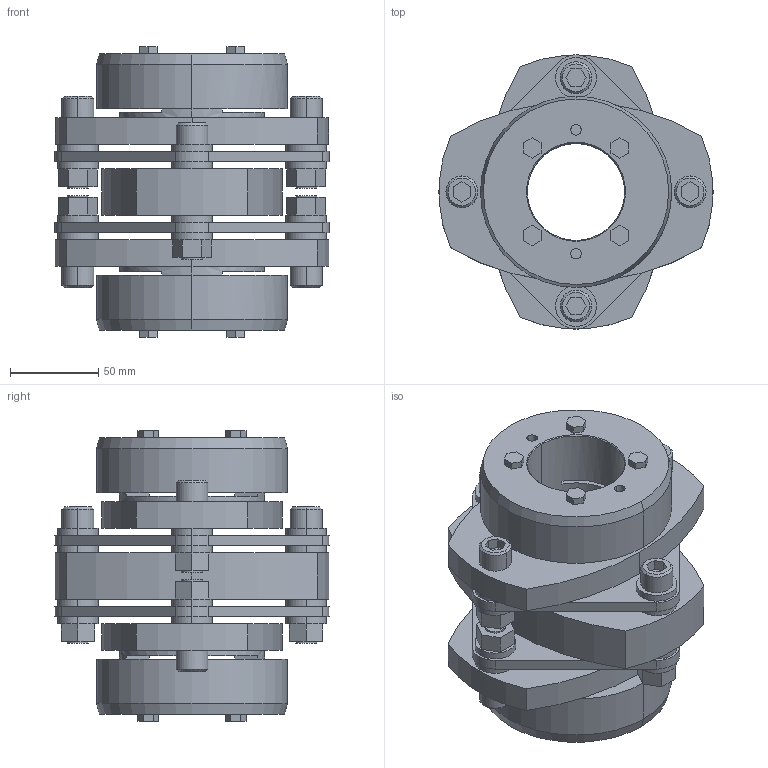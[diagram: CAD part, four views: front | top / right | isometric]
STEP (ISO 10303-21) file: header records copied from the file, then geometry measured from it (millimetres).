
FILE_DESCRIPTION((''),'2;1');
FILE_NAME('LCD-155T7-55×55.stp','2011-09-08T15:00:30',(''),(''),'AutoCAD STEP 2000i','AutoCAD 2000i',', , ');
FILE_SCHEMA(('CONFIG_CONTROL_DESIGN'));
Length unit declared in the file: millimetre
Products named in the file (9): LCD-155T7-55×55; 忣兜1; LC155T7-T055-1; LC155T7-T055; LC155T7-T050-1; LC155T7-T050; LC155T7-T045-1; LC155T7-T045; LCD155-ITA
Assembly tree (8 placements, depth 2):
  LCD-155T7-55×55
    忣兜1
    LC155T7-T055-1
    LC155T7-T055
    LC155T7-T050-1
    LC155T7-T050
    LC155T7-T045-1
    LC155T7-T045
    LCD155-ITA
Bounding box: 155 x 154.9 x 164 mm (x, y, z)
Volume: 1222446.2 mm3; surface area: 214845.3 mm2
Topology: 1 solids, 1 shells, 334 faces, 818 edges, 538 vertices
Faces by surface type: plane 190, cylinder 120, cone 24
Entity records: 10127 total; most frequent: DIRECTION 1786, CARTESIAN_POINT 1699, ORIENTED_EDGE 1636, EDGE_CURVE 818, AXIS2_PLACEMENT_3D 625, VERTEX_POINT 538, VECTOR 536, LINE 536
